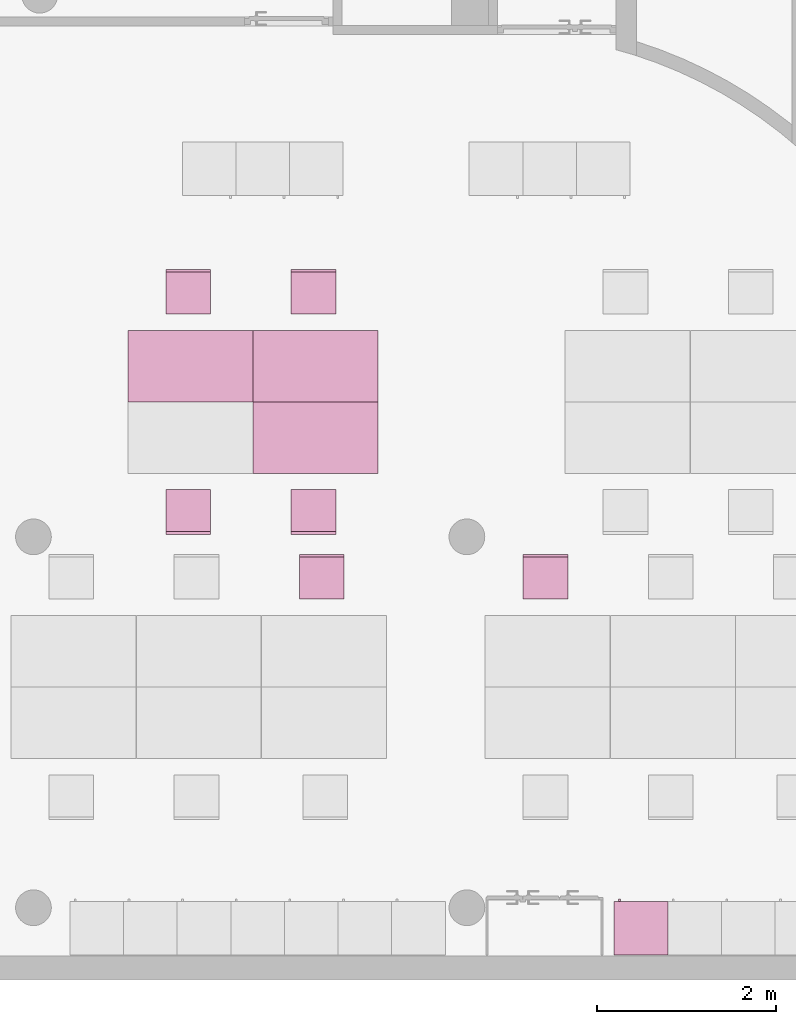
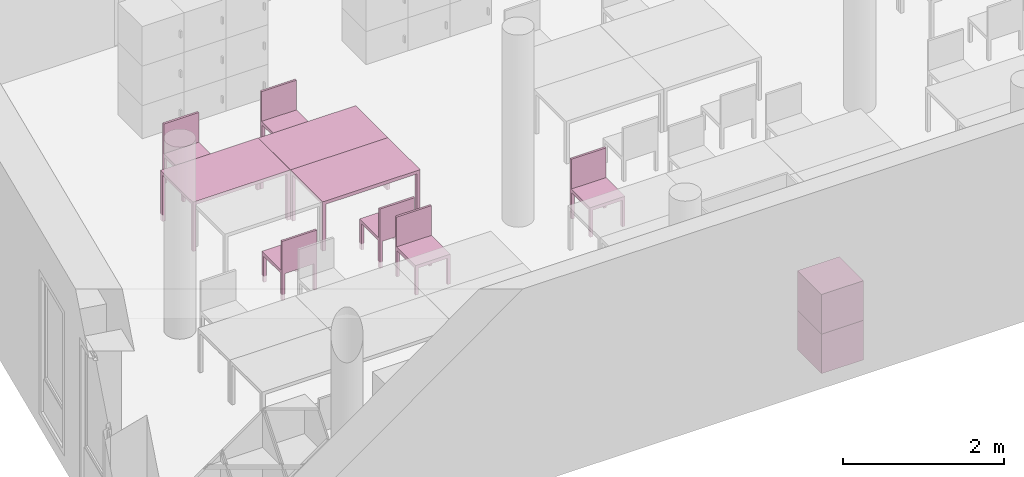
"""IFC4 building model written with IfcOpenShell, lengths in metres."""

from ifc_helpers import new_model, entity, si_unit, converted_unit, derived_unit, frame, origin, place, context, subcontext, project, spatial, faceted_brep, element, save


model = new_model("IFC4")

# Units and contexts
model_context = context("Model", 3, precision=1e-05, world=origin())
body_context = subcontext(model_context, "Body", "Model", "MODEL_VIEW")
ifc_project = project(units=[si_unit("LENGTHUNIT", "METRE"), si_unit("AREAUNIT", "SQUARE_METRE"), si_unit("VOLUMEUNIT", "CUBIC_METRE"), si_unit("MASSUNIT", "GRAM", prefix="KILO"), converted_unit("PLANEANGLEUNIT", "DEGREE", entity("IfcPlaneAngleMeasure", 0.0174532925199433), si_unit("PLANEANGLEUNIT", "RADIAN"), dimensions=[0, 0, 0, 0, 0, 0, 0]), derived_unit("THERMALTRANSMITTANCEUNIT", [(si_unit("POWERUNIT", "WATT"), 1), (si_unit("THERMODYNAMICTEMPERATUREUNIT", "KELVIN"), -1), (si_unit("LENGTHUNIT", "METRE"), -2)]), derived_unit("VOLUMETRICFLOWRATEUNIT", [(si_unit("LENGTHUNIT", "METRE"), 3), (converted_unit("TIMEUNIT", "hour", entity("IfcTimeMeasure", 3600.0), si_unit("TIMEUNIT", "SECOND"), dimensions=[0, 0, 1, 0, 0, 0, 0]), -1), (si_unit("LENGTHUNIT", "METRE"), -1)])], contexts=[model_context])

# Building, storeys
building_placement = place(None, origin())
building = spatial("IfcBuilding", under=ifc_project, at=building_placement, Name="HABITATGE PLURIFAMILIAR", CompositionType="ELEMENT")
storey_1_placement = place(building_placement, frame((0.0, 0.0, 15.28)))
storey_1 = spatial("IfcBuildingStorey", under=building, at=storey_1_placement, Name="PLANTA QUARTA", CompositionType="ELEMENT", Elevation=15.28)
storey_2_placement = place(storey_1_placement, frame((0.0, 0.0, 12.27)))
storey_2 = spatial("IfcBuildingStorey", under=storey_1, at=storey_2_placement, Name="NOU", CompositionType="PARTIAL")

# Furniture
furniture_1_placement = place(storey_2_placement, frame((403.445778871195, 18.5099524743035, -12.3699999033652)))
element("IfcFurniture", 1, at=furniture_1_placement, inside=storey_2, Name="Taula 140X80_P4", context=body_context, shape_type="Brep", body=[
    faceted_brep([(0.04375, 0.750069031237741, 0.0), (0.04375, 0.800069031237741, 0.0), (0.0, 0.800069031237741, 0.0), (0.0, 0.750069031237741, 0.0), (0.04375, 0.800069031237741, 0.7), (0.04375, 0.750069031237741, 0.7), (0.0, 0.750069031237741, 0.7), (0.0, 0.800069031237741, 0.7)], [[[0, 1, 2, 3]], [[4, 5, 6, 7]], [[1, 0, 5, 4]], [[2, 1, 4, 7]], [[3, 2, 7, 6]], [[0, 3, 6, 5]]], orient=[[False], [False], [False], [False], [False], [False]]),
    faceted_brep([(0.04375, 0.0, 0.0), (0.04375, 0.05, 0.0), (0.0, 0.05, 0.0), (0.0, 0.0, 0.0), (0.04375, 0.05, 0.7), (0.04375, 0.0, 0.7), (0.0, 0.0, 0.7), (0.0, 0.05, 0.7)], [[[0, 1, 2, 3]], [[4, 5, 6, 7]], [[1, 0, 5, 4]], [[2, 1, 4, 7]], [[3, 2, 7, 6]], [[0, 3, 6, 5]]], orient=[[False], [False], [False], [False], [False], [False]]),
    faceted_brep([(1.39732768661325, 0.0, 0.7), (1.39732768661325, 0.800069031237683, 0.7), (0.0, 0.800069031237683, 0.7), (0.0, 0.0, 0.7), (1.39732768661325, 0.800069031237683, 0.75), (1.39732768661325, 0.0, 0.75), (0.0, 0.0, 0.75), (0.0, 0.800069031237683, 0.75)], [[[0, 1, 2, 3]], [[4, 5, 6, 7]], [[1, 0, 5, 4]], [[2, 1, 4, 7]], [[3, 2, 7, 6]], [[0, 3, 6, 5]]], orient=[[False], [False], [False], [False], [False], [False]]),
    faceted_brep([(1.39732768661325, 0.750069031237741, 0.0), (1.39732768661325, 0.800069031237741, 0.0), (1.35357768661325, 0.800069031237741, 0.0), (1.35357768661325, 0.750069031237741, 0.0), (1.39732768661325, 0.800069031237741, 0.7), (1.39732768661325, 0.750069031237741, 0.7), (1.35357768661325, 0.750069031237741, 0.7), (1.35357768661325, 0.800069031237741, 0.7)], [[[0, 1, 2, 3]], [[4, 5, 6, 7]], [[1, 0, 5, 4]], [[2, 1, 4, 7]], [[3, 2, 7, 6]], [[0, 3, 6, 5]]], orient=[[False], [False], [False], [False], [False], [False]]),
    faceted_brep([(1.39732768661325, 0.0, 0.0), (1.39732768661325, 0.05, 0.0), (1.35357768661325, 0.05, 0.0), (1.35357768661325, 0.0, 0.0), (1.39732768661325, 0.05, 0.7), (1.39732768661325, 0.0, 0.7), (1.35357768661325, 0.0, 0.7), (1.35357768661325, 0.05, 0.7)], [[[0, 1, 2, 3]], [[4, 5, 6, 7]], [[1, 0, 5, 4]], [[2, 1, 4, 7]], [[3, 2, 7, 6]], [[0, 3, 6, 5]]], orient=[[False], [False], [False], [False], [False], [False]]),
])
furniture_2_placement = place(storey_2_placement, frame((403.445778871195, 19.3100215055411, -12.3699999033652)))
element("IfcFurniture", 2, at=furniture_2_placement, inside=storey_2, Name="Taula 140X80_P4", context=body_context, shape_type="Brep", body=[
    faceted_brep([(0.04375, 0.05, 0.0), (0.0, 0.05, 0.0), (0.0, 0.0, 0.0), (0.04375, 0.0, 0.0), (0.04375, 0.0, 0.7), (0.0, 0.0, 0.7), (0.0, 0.05, 0.7), (0.04375, 0.05, 0.7)], [[[0, 1, 2, 3]], [[4, 5, 6, 7]], [[3, 4, 7, 0]], [[2, 5, 4, 3]], [[1, 6, 5, 2]], [[0, 7, 6, 1]]], orient=[[False], [False], [False], [False], [False], [False]]),
    faceted_brep([(0.04375, 0.800069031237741, 0.0), (0.0, 0.800069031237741, 0.0), (0.0, 0.750069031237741, 0.0), (0.04375, 0.750069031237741, 0.0), (0.04375, 0.750069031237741, 0.7), (0.0, 0.750069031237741, 0.7), (0.0, 0.800069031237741, 0.7), (0.04375, 0.800069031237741, 0.7)], [[[0, 1, 2, 3]], [[4, 5, 6, 7]], [[3, 4, 7, 0]], [[2, 5, 4, 3]], [[1, 6, 5, 2]], [[0, 7, 6, 1]]], orient=[[False], [False], [False], [False], [False], [False]]),
    faceted_brep([(1.39732768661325, 0.800069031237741, 0.7), (0.0, 0.800069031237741, 0.7), (0.0, 0.0, 0.7), (1.39732768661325, 0.0, 0.7), (1.39732768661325, 0.0, 0.75), (0.0, 0.0, 0.75), (0.0, 0.800069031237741, 0.75), (1.39732768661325, 0.800069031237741, 0.75)], [[[0, 1, 2, 3]], [[4, 5, 6, 7]], [[3, 4, 7, 0]], [[2, 5, 4, 3]], [[1, 6, 5, 2]], [[0, 7, 6, 1]]], orient=[[False], [False], [False], [False], [False], [False]]),
    faceted_brep([(1.39732768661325, 0.05, 0.0), (1.35357768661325, 0.05, 0.0), (1.35357768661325, 0.0, 0.0), (1.39732768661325, 0.0, 0.0), (1.39732768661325, 0.0, 0.7), (1.35357768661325, 0.0, 0.7), (1.35357768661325, 0.05, 0.7), (1.39732768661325, 0.05, 0.7)], [[[0, 1, 2, 3]], [[4, 5, 6, 7]], [[3, 4, 7, 0]], [[2, 5, 4, 3]], [[1, 6, 5, 2]], [[0, 7, 6, 1]]], orient=[[False], [False], [False], [False], [False], [False]]),
    faceted_brep([(1.39732768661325, 0.800069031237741, 0.0), (1.35357768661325, 0.800069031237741, 0.0), (1.35357768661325, 0.750069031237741, 0.0), (1.39732768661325, 0.750069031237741, 0.0), (1.39732768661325, 0.750069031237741, 0.7), (1.35357768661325, 0.750069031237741, 0.7), (1.35357768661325, 0.800069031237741, 0.7), (1.39732768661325, 0.800069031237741, 0.7)], [[[0, 1, 2, 3]], [[4, 5, 6, 7]], [[3, 4, 7, 0]], [[2, 5, 4, 3]], [[1, 6, 5, 2]], [[0, 7, 6, 1]]], orient=[[False], [False], [False], [False], [False], [False]]),
])
furniture_3_placement = place(storey_2_placement, frame((402.04459977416, 19.3100215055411, -12.3699999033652)))
element("IfcFurniture", 3, at=furniture_3_placement, inside=storey_2, Name="Taula 140X80_P4", context=body_context, shape_type="Brep", body=[
    faceted_brep([(0.04375, 0.05, 0.0), (0.0, 0.05, 0.0), (0.0, 0.0, 0.0), (0.04375, 0.0, 0.0), (0.04375, 0.0, 0.7), (0.0, 0.0, 0.7), (0.0, 0.05, 0.7), (0.04375, 0.05, 0.7)], [[[0, 1, 2, 3]], [[4, 5, 6, 7]], [[3, 4, 7, 0]], [[2, 5, 4, 3]], [[1, 6, 5, 2]], [[0, 7, 6, 1]]], orient=[[False], [False], [False], [False], [False], [False]]),
    faceted_brep([(0.04375, 0.800069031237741, 0.0), (0.0, 0.800069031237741, 0.0), (0.0, 0.750069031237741, 0.0), (0.04375, 0.750069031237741, 0.0), (0.04375, 0.750069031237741, 0.7), (0.0, 0.750069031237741, 0.7), (0.0, 0.800069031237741, 0.7), (0.04375, 0.800069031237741, 0.7)], [[[0, 1, 2, 3]], [[4, 5, 6, 7]], [[3, 4, 7, 0]], [[2, 5, 4, 3]], [[1, 6, 5, 2]], [[0, 7, 6, 1]]], orient=[[False], [False], [False], [False], [False], [False]]),
    faceted_brep([(1.39732768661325, 0.800069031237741, 0.7), (0.0, 0.800069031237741, 0.7), (0.0, 0.0, 0.7), (1.39732768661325, 0.0, 0.7), (1.39732768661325, 0.0, 0.75), (0.0, 0.0, 0.75), (0.0, 0.800069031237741, 0.75), (1.39732768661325, 0.800069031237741, 0.75)], [[[0, 1, 2, 3]], [[4, 5, 6, 7]], [[3, 4, 7, 0]], [[2, 5, 4, 3]], [[1, 6, 5, 2]], [[0, 7, 6, 1]]], orient=[[False], [False], [False], [False], [False], [False]]),
    faceted_brep([(1.39732768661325, 0.05, 0.0), (1.35357768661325, 0.05, 0.0), (1.35357768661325, 0.0, 0.0), (1.39732768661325, 0.0, 0.0), (1.39732768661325, 0.0, 0.7), (1.35357768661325, 0.0, 0.7), (1.35357768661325, 0.05, 0.7), (1.39732768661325, 0.05, 0.7)], [[[0, 1, 2, 3]], [[4, 5, 6, 7]], [[3, 4, 7, 0]], [[2, 5, 4, 3]], [[1, 6, 5, 2]], [[0, 7, 6, 1]]], orient=[[False], [False], [False], [False], [False], [False]]),
    faceted_brep([(1.39732768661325, 0.800069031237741, 0.0), (1.35357768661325, 0.800069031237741, 0.0), (1.35357768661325, 0.750069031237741, 0.0), (1.39732768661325, 0.750069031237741, 0.0), (1.39732768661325, 0.750069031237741, 0.7), (1.35357768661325, 0.750069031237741, 0.7), (1.35357768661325, 0.800069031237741, 0.7), (1.39732768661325, 0.800069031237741, 0.7)], [[[0, 1, 2, 3]], [[4, 5, 6, 7]], [[3, 4, 7, 0]], [[2, 5, 4, 3]], [[1, 6, 5, 2]], [[0, 7, 6, 1]]], orient=[[False], [False], [False], [False], [False], [False]]),
])
furniture_4_placement = place(storey_2_placement, frame((407.48527037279, 13.1194598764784, -12.37)))
element("IfcFurniture", 4, at=furniture_4_placement, inside=storey_2, Name="Armai 60x60x60_P4", context=body_context, shape_type="Brep", body=[
    faceted_brep([(0.0, 0.6, 0.02), (0.0, 0.6, 0.0), (0.6, 0.6, 0.0), (0.6, 0.6, 0.02), (0.6, 0.0, 0.0), (0.6, 0.0, 0.02), (0.0, 0.0, 0.0), (0.0, 0.0, 0.02)], [[[0, 1, 2, 3]], [[3, 2, 4, 5]], [[5, 4, 6, 7]], [[7, 6, 1, 0]], [[0, 3, 5, 7]], [[1, 6, 4, 2]]], orient=[[False], [False], [False], [False], [False], [False]]),
    faceted_brep([(0.580000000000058, 0.0, 0.58), (0.580000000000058, 0.0200000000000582, 0.58), (0.580000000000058, 0.0200000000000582, 0.02), (0.580000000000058, 0.0, 0.02), (0.0200000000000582, 0.0200000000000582, 0.02), (0.0200000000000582, 0.0, 0.02), (0.0200000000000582, 0.0200000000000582, 0.58), (0.0200000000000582, 0.0, 0.58)], [[[0, 1, 2, 3]], [[3, 2, 4, 5]], [[5, 4, 6, 7]], [[7, 6, 1, 0]], [[0, 3, 5, 7]], [[1, 6, 4, 2]]], orient=[[False], [False], [False], [False], [False], [False]]),
    faceted_brep([(0.0200000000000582, 0.6, 0.58), (0.0, 0.6, 0.58), (0.0, 0.6, 0.02), (0.0200000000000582, 0.6, 0.02), (0.0, 0.0, 0.02), (0.0200000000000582, 0.0, 0.02), (0.0, 0.0, 0.58), (0.0200000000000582, 0.0, 0.58)], [[[0, 1, 2, 3]], [[3, 2, 4, 5]], [[5, 4, 6, 7]], [[7, 6, 1, 0]], [[0, 3, 5, 7]], [[1, 6, 4, 2]]], orient=[[False], [False], [False], [False], [False], [False]]),
    faceted_brep([(0.0, 0.58, 0.58), (0.0, 0.6, 0.58), (0.0, 0.6, 0.02), (0.0, 0.58, 0.02), (0.02, 0.6, 0.02), (0.02, 0.58, 0.02), (0.02, 0.6, 0.58), (0.02, 0.58, 0.58)], [[[0, 1, 2, 3]], [[3, 2, 4, 5]], [[5, 4, 6, 7]], [[7, 6, 1, 0]], [[0, 3, 5, 7]], [[1, 6, 4, 2]]], orient=[[False], [False], [False], [False], [False], [False]]),
    faceted_brep([(0.6, 0.6, 0.58), (0.58, 0.6, 0.58), (0.58, 0.6, 0.02), (0.6, 0.6, 0.02), (0.58, 0.0, 0.02), (0.6, 0.0, 0.02), (0.58, 0.0, 0.58), (0.6, 0.0, 0.58)], [[[0, 1, 2, 3]], [[3, 2, 4, 5]], [[5, 4, 6, 7]], [[7, 6, 1, 0]], [[0, 3, 5, 7]], [[1, 6, 4, 2]]], orient=[[False], [False], [False], [False], [False], [False]]),
    faceted_brep([(0.0, 0.600000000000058, 0.6), (0.0, 0.600000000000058, 0.58), (0.600000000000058, 0.600000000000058, 0.58), (0.600000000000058, 0.600000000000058, 0.6), (0.600000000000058, 0.0, 0.58), (0.600000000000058, 0.0, 0.6), (0.0, 0.0, 0.58), (0.0, 0.0, 0.6)], [[[0, 1, 2, 3]], [[3, 2, 4, 5]], [[5, 4, 6, 7]], [[7, 6, 1, 0]], [[0, 3, 5, 7]], [[1, 6, 4, 2]]], orient=[[False], [False], [False], [False], [False], [False]]),
    faceted_brep([(0.580000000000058, 0.580000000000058, 0.58), (0.580000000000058, 0.600000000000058, 0.58), (0.580000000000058, 0.600000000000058, 0.02), (0.580000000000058, 0.580000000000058, 0.02), (0.02, 0.600000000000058, 0.02), (0.02, 0.580000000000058, 0.02), (0.02, 0.600000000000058, 0.58), (0.02, 0.580000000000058, 0.58)], [[[0, 1, 2, 3]], [[3, 2, 4, 5]], [[5, 4, 6, 7]], [[7, 6, 1, 0]], [[0, 3, 5, 7]], [[1, 6, 4, 2]]], orient=[[False], [False], [False], [False], [False], [False]]),
    faceted_brep([(0.0700000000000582, 0.600000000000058, 0.358064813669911), (0.0700000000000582, 0.630000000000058, 0.358064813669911), (0.0700000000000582, 0.630000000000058, 0.258064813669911), (0.0700000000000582, 0.600000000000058, 0.258064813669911), (0.0500000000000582, 0.630000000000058, 0.258064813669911), (0.0500000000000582, 0.600000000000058, 0.258064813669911), (0.0500000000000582, 0.630000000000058, 0.358064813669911), (0.0500000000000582, 0.600000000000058, 0.358064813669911)], [[[0, 1, 2, 3]], [[3, 2, 4, 5]], [[5, 4, 6, 7]], [[7, 6, 1, 0]], [[0, 3, 5, 7]], [[1, 6, 4, 2]]], orient=[[False], [False], [False], [False], [False], [False]]),
])
furniture_5_placement = place(storey_2_placement, frame((407.48527037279, 13.1194598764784, -11.77)))
element("IfcFurniture", 5, at=furniture_5_placement, inside=storey_2, Name="Armai 60x60x60_P4", context=body_context, shape_type="Brep", body=[
    faceted_brep([(0.0, 0.6, 0.02), (0.0, 0.6, 0.0), (0.6, 0.6, 0.0), (0.6, 0.6, 0.02), (0.6, 0.0, 0.0), (0.6, 0.0, 0.02), (0.0, 0.0, 0.0), (0.0, 0.0, 0.02)], [[[0, 1, 2, 3]], [[3, 2, 4, 5]], [[5, 4, 6, 7]], [[7, 6, 1, 0]], [[0, 3, 5, 7]], [[1, 6, 4, 2]]], orient=[[False], [False], [False], [False], [False], [False]]),
    faceted_brep([(0.580000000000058, 0.0, 0.58), (0.580000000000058, 0.0200000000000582, 0.58), (0.580000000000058, 0.0200000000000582, 0.02), (0.580000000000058, 0.0, 0.02), (0.0200000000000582, 0.0200000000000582, 0.02), (0.0200000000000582, 0.0, 0.02), (0.0200000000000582, 0.0200000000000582, 0.58), (0.0200000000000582, 0.0, 0.58)], [[[0, 1, 2, 3]], [[3, 2, 4, 5]], [[5, 4, 6, 7]], [[7, 6, 1, 0]], [[0, 3, 5, 7]], [[1, 6, 4, 2]]], orient=[[False], [False], [False], [False], [False], [False]]),
    faceted_brep([(0.0200000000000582, 0.6, 0.58), (0.0, 0.6, 0.58), (0.0, 0.6, 0.02), (0.0200000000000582, 0.6, 0.02), (0.0, 0.0, 0.02), (0.0200000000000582, 0.0, 0.02), (0.0, 0.0, 0.58), (0.0200000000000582, 0.0, 0.58)], [[[0, 1, 2, 3]], [[3, 2, 4, 5]], [[5, 4, 6, 7]], [[7, 6, 1, 0]], [[0, 3, 5, 7]], [[1, 6, 4, 2]]], orient=[[False], [False], [False], [False], [False], [False]]),
    faceted_brep([(0.0, 0.58, 0.58), (0.0, 0.6, 0.58), (0.0, 0.6, 0.02), (0.0, 0.58, 0.02), (0.02, 0.6, 0.02), (0.02, 0.58, 0.02), (0.02, 0.6, 0.58), (0.02, 0.58, 0.58)], [[[0, 1, 2, 3]], [[3, 2, 4, 5]], [[5, 4, 6, 7]], [[7, 6, 1, 0]], [[0, 3, 5, 7]], [[1, 6, 4, 2]]], orient=[[False], [False], [False], [False], [False], [False]]),
    faceted_brep([(0.6, 0.6, 0.58), (0.58, 0.6, 0.58), (0.58, 0.6, 0.02), (0.6, 0.6, 0.02), (0.58, 0.0, 0.02), (0.6, 0.0, 0.02), (0.58, 0.0, 0.58), (0.6, 0.0, 0.58)], [[[0, 1, 2, 3]], [[3, 2, 4, 5]], [[5, 4, 6, 7]], [[7, 6, 1, 0]], [[0, 3, 5, 7]], [[1, 6, 4, 2]]], orient=[[False], [False], [False], [False], [False], [False]]),
    faceted_brep([(0.0, 0.600000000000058, 0.6), (0.0, 0.600000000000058, 0.58), (0.600000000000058, 0.600000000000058, 0.58), (0.600000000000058, 0.600000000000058, 0.6), (0.600000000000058, 0.0, 0.58), (0.600000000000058, 0.0, 0.6), (0.0, 0.0, 0.58), (0.0, 0.0, 0.6)], [[[0, 1, 2, 3]], [[3, 2, 4, 5]], [[5, 4, 6, 7]], [[7, 6, 1, 0]], [[0, 3, 5, 7]], [[1, 6, 4, 2]]], orient=[[False], [False], [False], [False], [False], [False]]),
    faceted_brep([(0.580000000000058, 0.580000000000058, 0.58), (0.580000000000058, 0.600000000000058, 0.58), (0.580000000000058, 0.600000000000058, 0.02), (0.580000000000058, 0.580000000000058, 0.02), (0.02, 0.600000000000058, 0.02), (0.02, 0.580000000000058, 0.02), (0.02, 0.600000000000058, 0.58), (0.02, 0.580000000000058, 0.58)], [[[0, 1, 2, 3]], [[3, 2, 4, 5]], [[5, 4, 6, 7]], [[7, 6, 1, 0]], [[0, 3, 5, 7]], [[1, 6, 4, 2]]], orient=[[False], [False], [False], [False], [False], [False]]),
    faceted_brep([(0.0700000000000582, 0.600000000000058, 0.358064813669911), (0.0700000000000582, 0.630000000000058, 0.358064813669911), (0.0700000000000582, 0.630000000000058, 0.258064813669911), (0.0700000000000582, 0.600000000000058, 0.258064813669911), (0.0500000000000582, 0.630000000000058, 0.258064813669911), (0.0500000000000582, 0.600000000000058, 0.258064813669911), (0.0500000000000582, 0.630000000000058, 0.358064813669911), (0.0500000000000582, 0.600000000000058, 0.358064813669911)], [[[0, 1, 2, 3]], [[3, 2, 4, 5]], [[5, 4, 6, 7]], [[7, 6, 1, 0]], [[0, 3, 5, 7]], [[1, 6, 4, 2]]], orient=[[False], [False], [False], [False], [False], [False]]),
])
furniture_6_placement = place(storey_2_placement, frame((403.962266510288, 17.1018108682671, -12.3640610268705)))
element("IfcFurniture", 6, at=furniture_6_placement, inside=storey_2, Name="Cadira d'Oficina_P4", context=body_context, shape_type="Brep", body=[
    faceted_brep([(0.5, 0.0, 0.399999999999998), (0.5, 0.500000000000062, 0.399999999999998), (0.0, 0.5, 0.399999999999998), (0.0, 0.0, 0.399999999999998), (0.5, 0.500000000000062, 0.449999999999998), (0.5, 0.0, 0.449999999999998), (0.0, 0.0, 0.449999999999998), (0.0, 0.5, 0.449999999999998)], [[[0, 1, 2, 3]], [[4, 5, 6, 7]], [[1, 0, 5, 4]], [[2, 1, 4, 7]], [[3, 2, 7, 6]], [[0, 3, 6, 5]]], orient=[[False], [False], [False], [False], [False], [False]]),
    faceted_brep([(0.0, 0.46, 0.0), (0.04, 0.46, 0.0), (0.04, 0.5, 0.0), (0.0, 0.5, 0.0), (0.04, 0.46, 0.4), (0.0, 0.46, 0.4), (0.0, 0.5, 0.4), (0.04, 0.5, 0.4)], [[[0, 1, 2, 3]], [[4, 5, 6, 7]], [[1, 0, 5, 4]], [[2, 1, 4, 7]], [[3, 2, 7, 6]], [[0, 3, 6, 5]]], orient=[[False], [False], [False], [False], [False], [False]]),
    faceted_brep([(0.0, 0.0, 0.0), (0.04, 0.0, 0.0), (0.04, 0.04, 0.0), (0.0, 0.04, 0.0), (0.04, 0.0, 0.4), (0.0, 0.0, 0.4), (0.0, 0.04, 0.4), (0.04, 0.04, 0.4)], [[[0, 1, 2, 3]], [[4, 5, 6, 7]], [[1, 0, 5, 4]], [[2, 1, 4, 7]], [[3, 2, 7, 6]], [[0, 3, 6, 5]]], orient=[[False], [False], [False], [False], [False], [False]]),
    faceted_brep([(0.46, 0.460000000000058, 0.0), (0.5, 0.460000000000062, 0.0), (0.5, 0.500000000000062, 0.0), (0.46, 0.500000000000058, 0.0), (0.5, 0.460000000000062, 0.4), (0.46, 0.460000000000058, 0.4), (0.46, 0.500000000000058, 0.4), (0.5, 0.500000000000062, 0.4)], [[[0, 1, 2, 3]], [[4, 5, 6, 7]], [[1, 0, 5, 4]], [[2, 1, 4, 7]], [[3, 2, 7, 6]], [[0, 3, 6, 5]]], orient=[[False], [False], [False], [False], [False], [False]]),
    faceted_brep([(0.46, 0.0, 0.0), (0.5, 0.0, 0.0), (0.5, 0.0400000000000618, 0.0), (0.46, 0.0400000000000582, 0.0), (0.5, 0.0, 0.4), (0.46, 0.0, 0.4), (0.46, 0.0400000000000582, 0.4), (0.5, 0.0400000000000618, 0.4)], [[[0, 1, 2, 3]], [[4, 5, 6, 7]], [[1, 0, 5, 4]], [[2, 1, 4, 7]], [[3, 2, 7, 6]], [[0, 3, 6, 5]]], orient=[[False], [False], [False], [False], [False], [False]]),
    faceted_brep([(0.0, 0.47, 0.45), (0.5, 0.470000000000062, 0.45), (0.5, 0.500000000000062, 0.45), (0.0, 0.5, 0.45), (0.5, 0.470000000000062, 0.9), (0.0, 0.47, 0.9), (0.0, 0.5, 0.9), (0.5, 0.500000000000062, 0.9)], [[[0, 1, 2, 3]], [[4, 5, 6, 7]], [[1, 0, 5, 4]], [[2, 1, 4, 7]], [[3, 2, 7, 6]], [[0, 3, 6, 5]]], orient=[[False], [False], [False], [False], [False], [False]]),
])
furniture_7_placement = place(storey_2_placement, frame((406.46698289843, 17.1018108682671, -12.3640610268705)))
element("IfcFurniture", 7, at=furniture_7_placement, inside=storey_2, Name="Cadira d'Oficina_P4", context=body_context, shape_type="Brep", body=[
    faceted_brep([(0.5, 0.0, 0.399999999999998), (0.5, 0.500000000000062, 0.399999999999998), (0.0, 0.5, 0.399999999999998), (0.0, 0.0, 0.399999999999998), (0.5, 0.500000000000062, 0.449999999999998), (0.5, 0.0, 0.449999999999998), (0.0, 0.0, 0.449999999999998), (0.0, 0.5, 0.449999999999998)], [[[0, 1, 2, 3]], [[4, 5, 6, 7]], [[1, 0, 5, 4]], [[2, 1, 4, 7]], [[3, 2, 7, 6]], [[0, 3, 6, 5]]], orient=[[False], [False], [False], [False], [False], [False]]),
    faceted_brep([(0.0, 0.46, 0.0), (0.04, 0.46, 0.0), (0.04, 0.5, 0.0), (0.0, 0.5, 0.0), (0.04, 0.46, 0.4), (0.0, 0.46, 0.4), (0.0, 0.5, 0.4), (0.04, 0.5, 0.4)], [[[0, 1, 2, 3]], [[4, 5, 6, 7]], [[1, 0, 5, 4]], [[2, 1, 4, 7]], [[3, 2, 7, 6]], [[0, 3, 6, 5]]], orient=[[False], [False], [False], [False], [False], [False]]),
    faceted_brep([(0.0, 0.0, 0.0), (0.04, 0.0, 0.0), (0.04, 0.04, 0.0), (0.0, 0.04, 0.0), (0.04, 0.0, 0.4), (0.0, 0.0, 0.4), (0.0, 0.04, 0.4), (0.04, 0.04, 0.4)], [[[0, 1, 2, 3]], [[4, 5, 6, 7]], [[1, 0, 5, 4]], [[2, 1, 4, 7]], [[3, 2, 7, 6]], [[0, 3, 6, 5]]], orient=[[False], [False], [False], [False], [False], [False]]),
    faceted_brep([(0.46, 0.460000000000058, 0.0), (0.5, 0.460000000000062, 0.0), (0.5, 0.500000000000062, 0.0), (0.46, 0.500000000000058, 0.0), (0.5, 0.460000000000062, 0.4), (0.46, 0.460000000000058, 0.4), (0.46, 0.500000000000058, 0.4), (0.5, 0.500000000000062, 0.4)], [[[0, 1, 2, 3]], [[4, 5, 6, 7]], [[1, 0, 5, 4]], [[2, 1, 4, 7]], [[3, 2, 7, 6]], [[0, 3, 6, 5]]], orient=[[False], [False], [False], [False], [False], [False]]),
    faceted_brep([(0.46, 0.0, 0.0), (0.5, 0.0, 0.0), (0.5, 0.0400000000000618, 0.0), (0.46, 0.0400000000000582, 0.0), (0.5, 0.0, 0.4), (0.46, 0.0, 0.4), (0.46, 0.0400000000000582, 0.4), (0.5, 0.0400000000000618, 0.4)], [[[0, 1, 2, 3]], [[4, 5, 6, 7]], [[1, 0, 5, 4]], [[2, 1, 4, 7]], [[3, 2, 7, 6]], [[0, 3, 6, 5]]], orient=[[False], [False], [False], [False], [False], [False]]),
    faceted_brep([(0.0, 0.47, 0.45), (0.5, 0.470000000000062, 0.45), (0.5, 0.500000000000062, 0.45), (0.0, 0.5, 0.45), (0.5, 0.470000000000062, 0.9), (0.0, 0.47, 0.9), (0.0, 0.5, 0.9), (0.5, 0.500000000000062, 0.9)], [[[0, 1, 2, 3]], [[4, 5, 6, 7]], [[1, 0, 5, 4]], [[2, 1, 4, 7]], [[3, 2, 7, 6]], [[0, 3, 6, 5]]], orient=[[False], [False], [False], [False], [False], [False]]),
])
furniture_8_placement = place(storey_2_placement, frame((402.469290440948, 17.8277395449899, -12.3653305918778)))
element("IfcFurniture", 8, at=furniture_8_placement, inside=storey_2, Name="Cadira d'Oficina_P4", context=body_context, shape_type="Brep", body=[
    faceted_brep([(0.5, 0.5, 0.399999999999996), (0.0, 0.500000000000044, 0.399999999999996), (0.0, 0.0, 0.399999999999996), (0.5, 0.0, 0.399999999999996), (0.5, 0.0, 0.449999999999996), (0.0, 0.0, 0.449999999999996), (0.0, 0.500000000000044, 0.449999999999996), (0.5, 0.5, 0.449999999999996)], [[[0, 1, 2, 3]], [[4, 5, 6, 7]], [[3, 4, 7, 0]], [[2, 5, 4, 3]], [[1, 6, 5, 2]], [[0, 7, 6, 1]]], orient=[[False], [False], [False], [False], [False], [False]]),
    faceted_brep([(0.0, 0.0400000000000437, 0.0), (0.0, 0.0, 0.0), (0.04, 0.0, 0.0), (0.04, 0.0400000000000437, 0.0), (0.04, 0.0400000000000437, 0.4), (0.04, 0.0, 0.4), (0.0, 0.0, 0.4), (0.0, 0.0400000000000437, 0.4)], [[[0, 1, 2, 3]], [[4, 5, 6, 7]], [[3, 4, 7, 0]], [[2, 5, 4, 3]], [[1, 6, 5, 2]], [[0, 7, 6, 1]]], orient=[[False], [False], [False], [False], [False], [False]]),
    faceted_brep([(0.0, 0.500000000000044, 0.0), (0.0, 0.460000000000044, 0.0), (0.04, 0.460000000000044, 0.0), (0.04, 0.500000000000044, 0.0), (0.04, 0.500000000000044, 0.4), (0.04, 0.460000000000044, 0.4), (0.0, 0.460000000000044, 0.4), (0.0, 0.500000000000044, 0.4)], [[[0, 1, 2, 3]], [[4, 5, 6, 7]], [[3, 4, 7, 0]], [[2, 5, 4, 3]], [[1, 6, 5, 2]], [[0, 7, 6, 1]]], orient=[[False], [False], [False], [False], [False], [False]]),
    faceted_brep([(0.46, 0.04, 0.0), (0.46, 0.0, 0.0), (0.5, 0.0, 0.0), (0.5, 0.04, 0.0), (0.5, 0.04, 0.4), (0.5, 0.0, 0.4), (0.46, 0.0, 0.4), (0.46, 0.04, 0.4)], [[[0, 1, 2, 3]], [[4, 5, 6, 7]], [[3, 4, 7, 0]], [[2, 5, 4, 3]], [[1, 6, 5, 2]], [[0, 7, 6, 1]]], orient=[[False], [False], [False], [False], [False], [False]]),
    faceted_brep([(0.46, 0.5, 0.0), (0.46, 0.46, 0.0), (0.5, 0.46, 0.0), (0.5, 0.5, 0.0), (0.5, 0.5, 0.4), (0.5, 0.46, 0.4), (0.46, 0.46, 0.4), (0.46, 0.5, 0.4)], [[[0, 1, 2, 3]], [[4, 5, 6, 7]], [[3, 4, 7, 0]], [[2, 5, 4, 3]], [[1, 6, 5, 2]], [[0, 7, 6, 1]]], orient=[[False], [False], [False], [False], [False], [False]]),
    faceted_brep([(0.0, 0.0300000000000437, 0.45), (0.0, 0.0, 0.45), (0.5, 0.0, 0.45), (0.5, 0.03, 0.45), (0.5, 0.03, 0.9), (0.5, 0.0, 0.9), (0.0, 0.0, 0.9), (0.0, 0.0300000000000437, 0.9)], [[[0, 1, 2, 3]], [[4, 5, 6, 7]], [[3, 4, 7, 0]], [[2, 5, 4, 3]], [[1, 6, 5, 2]], [[0, 7, 6, 1]]], orient=[[False], [False], [False], [False], [False], [False]]),
])
furniture_9_placement = place(storey_2_placement, frame((403.870469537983, 20.2923034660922, -12.3640610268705)))
element("IfcFurniture", 9, at=furniture_9_placement, inside=storey_2, Name="Cadira d'Oficina_P4", context=body_context, shape_type="Brep", body=[
    faceted_brep([(0.5, 0.0, 0.399999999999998), (0.5, 0.500000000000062, 0.399999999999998), (0.0, 0.5, 0.399999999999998), (0.0, 0.0, 0.399999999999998), (0.5, 0.500000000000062, 0.449999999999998), (0.5, 0.0, 0.449999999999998), (0.0, 0.0, 0.449999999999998), (0.0, 0.5, 0.449999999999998)], [[[0, 1, 2, 3]], [[4, 5, 6, 7]], [[1, 0, 5, 4]], [[2, 1, 4, 7]], [[3, 2, 7, 6]], [[0, 3, 6, 5]]], orient=[[False], [False], [False], [False], [False], [False]]),
    faceted_brep([(0.0, 0.46, 0.0), (0.04, 0.46, 0.0), (0.04, 0.5, 0.0), (0.0, 0.5, 0.0), (0.04, 0.46, 0.4), (0.0, 0.46, 0.4), (0.0, 0.5, 0.4), (0.04, 0.5, 0.4)], [[[0, 1, 2, 3]], [[4, 5, 6, 7]], [[1, 0, 5, 4]], [[2, 1, 4, 7]], [[3, 2, 7, 6]], [[0, 3, 6, 5]]], orient=[[False], [False], [False], [False], [False], [False]]),
    faceted_brep([(0.0, 0.0, 0.0), (0.04, 0.0, 0.0), (0.04, 0.04, 0.0), (0.0, 0.04, 0.0), (0.04, 0.0, 0.4), (0.0, 0.0, 0.4), (0.0, 0.04, 0.4), (0.04, 0.04, 0.4)], [[[0, 1, 2, 3]], [[4, 5, 6, 7]], [[1, 0, 5, 4]], [[2, 1, 4, 7]], [[3, 2, 7, 6]], [[0, 3, 6, 5]]], orient=[[False], [False], [False], [False], [False], [False]]),
    faceted_brep([(0.46, 0.460000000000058, 0.0), (0.5, 0.460000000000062, 0.0), (0.5, 0.500000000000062, 0.0), (0.46, 0.500000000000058, 0.0), (0.5, 0.460000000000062, 0.4), (0.46, 0.460000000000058, 0.4), (0.46, 0.500000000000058, 0.4), (0.5, 0.500000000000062, 0.4)], [[[0, 1, 2, 3]], [[4, 5, 6, 7]], [[1, 0, 5, 4]], [[2, 1, 4, 7]], [[3, 2, 7, 6]], [[0, 3, 6, 5]]], orient=[[False], [False], [False], [False], [False], [False]]),
    faceted_brep([(0.46, 0.0, 0.0), (0.5, 0.0, 0.0), (0.5, 0.0400000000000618, 0.0), (0.46, 0.0400000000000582, 0.0), (0.5, 0.0, 0.4), (0.46, 0.0, 0.4), (0.46, 0.0400000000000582, 0.4), (0.5, 0.0400000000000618, 0.4)], [[[0, 1, 2, 3]], [[4, 5, 6, 7]], [[1, 0, 5, 4]], [[2, 1, 4, 7]], [[3, 2, 7, 6]], [[0, 3, 6, 5]]], orient=[[False], [False], [False], [False], [False], [False]]),
    faceted_brep([(0.0, 0.47, 0.45), (0.5, 0.470000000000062, 0.45), (0.5, 0.500000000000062, 0.45), (0.0, 0.5, 0.45), (0.5, 0.470000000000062, 0.9), (0.0, 0.47, 0.9), (0.0, 0.5, 0.9), (0.5, 0.500000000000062, 0.9)], [[[0, 1, 2, 3]], [[4, 5, 6, 7]], [[1, 0, 5, 4]], [[2, 1, 4, 7]], [[3, 2, 7, 6]], [[0, 3, 6, 5]]], orient=[[False], [False], [False], [False], [False], [False]]),
])
furniture_10_placement = place(storey_2_placement, frame((402.469290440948, 20.2923034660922, -12.3640610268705)))
element("IfcFurniture", 10, at=furniture_10_placement, inside=storey_2, Name="Cadira d'Oficina_P4", context=body_context, shape_type="Brep", body=[
    faceted_brep([(0.5, 0.0, 0.399999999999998), (0.5, 0.500000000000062, 0.399999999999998), (0.0, 0.5, 0.399999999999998), (0.0, 0.0, 0.399999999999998), (0.5, 0.500000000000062, 0.449999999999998), (0.5, 0.0, 0.449999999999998), (0.0, 0.0, 0.449999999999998), (0.0, 0.5, 0.449999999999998)], [[[0, 1, 2, 3]], [[4, 5, 6, 7]], [[1, 0, 5, 4]], [[2, 1, 4, 7]], [[3, 2, 7, 6]], [[0, 3, 6, 5]]], orient=[[False], [False], [False], [False], [False], [False]]),
    faceted_brep([(0.0, 0.46, 0.0), (0.04, 0.46, 0.0), (0.04, 0.5, 0.0), (0.0, 0.5, 0.0), (0.04, 0.46, 0.4), (0.0, 0.46, 0.4), (0.0, 0.5, 0.4), (0.04, 0.5, 0.4)], [[[0, 1, 2, 3]], [[4, 5, 6, 7]], [[1, 0, 5, 4]], [[2, 1, 4, 7]], [[3, 2, 7, 6]], [[0, 3, 6, 5]]], orient=[[False], [False], [False], [False], [False], [False]]),
    faceted_brep([(0.0, 0.0, 0.0), (0.04, 0.0, 0.0), (0.04, 0.04, 0.0), (0.0, 0.04, 0.0), (0.04, 0.0, 0.4), (0.0, 0.0, 0.4), (0.0, 0.04, 0.4), (0.04, 0.04, 0.4)], [[[0, 1, 2, 3]], [[4, 5, 6, 7]], [[1, 0, 5, 4]], [[2, 1, 4, 7]], [[3, 2, 7, 6]], [[0, 3, 6, 5]]], orient=[[False], [False], [False], [False], [False], [False]]),
    faceted_brep([(0.46, 0.460000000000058, 0.0), (0.5, 0.460000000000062, 0.0), (0.5, 0.500000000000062, 0.0), (0.46, 0.500000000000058, 0.0), (0.5, 0.460000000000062, 0.4), (0.46, 0.460000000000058, 0.4), (0.46, 0.500000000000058, 0.4), (0.5, 0.500000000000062, 0.4)], [[[0, 1, 2, 3]], [[4, 5, 6, 7]], [[1, 0, 5, 4]], [[2, 1, 4, 7]], [[3, 2, 7, 6]], [[0, 3, 6, 5]]], orient=[[False], [False], [False], [False], [False], [False]]),
    faceted_brep([(0.46, 0.0, 0.0), (0.5, 0.0, 0.0), (0.5, 0.0400000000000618, 0.0), (0.46, 0.0400000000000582, 0.0), (0.5, 0.0, 0.4), (0.46, 0.0, 0.4), (0.46, 0.0400000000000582, 0.4), (0.5, 0.0400000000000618, 0.4)], [[[0, 1, 2, 3]], [[4, 5, 6, 7]], [[1, 0, 5, 4]], [[2, 1, 4, 7]], [[3, 2, 7, 6]], [[0, 3, 6, 5]]], orient=[[False], [False], [False], [False], [False], [False]]),
    faceted_brep([(0.0, 0.47, 0.45), (0.5, 0.470000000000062, 0.45), (0.5, 0.500000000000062, 0.45), (0.0, 0.5, 0.45), (0.5, 0.470000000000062, 0.9), (0.0, 0.47, 0.9), (0.0, 0.5, 0.9), (0.5, 0.500000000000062, 0.9)], [[[0, 1, 2, 3]], [[4, 5, 6, 7]], [[1, 0, 5, 4]], [[2, 1, 4, 7]], [[3, 2, 7, 6]], [[0, 3, 6, 5]]], orient=[[False], [False], [False], [False], [False], [False]]),
])
furniture_11_placement = place(storey_2_placement, frame((403.870469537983, 17.8277395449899, -12.3653305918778)))
element("IfcFurniture", 11, at=furniture_11_placement, inside=storey_2, Name="Cadira d'Oficina_P4", context=body_context, shape_type="Brep", body=[
    faceted_brep([(0.5, 0.5, 0.399999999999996), (0.0, 0.500000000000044, 0.399999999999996), (0.0, 0.0, 0.399999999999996), (0.5, 0.0, 0.399999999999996), (0.5, 0.0, 0.449999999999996), (0.0, 0.0, 0.449999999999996), (0.0, 0.500000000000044, 0.449999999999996), (0.5, 0.5, 0.449999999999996)], [[[0, 1, 2, 3]], [[4, 5, 6, 7]], [[3, 4, 7, 0]], [[2, 5, 4, 3]], [[1, 6, 5, 2]], [[0, 7, 6, 1]]], orient=[[False], [False], [False], [False], [False], [False]]),
    faceted_brep([(0.0, 0.0400000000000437, 0.0), (0.0, 0.0, 0.0), (0.04, 0.0, 0.0), (0.04, 0.0400000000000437, 0.0), (0.04, 0.0400000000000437, 0.4), (0.04, 0.0, 0.4), (0.0, 0.0, 0.4), (0.0, 0.0400000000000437, 0.4)], [[[0, 1, 2, 3]], [[4, 5, 6, 7]], [[3, 4, 7, 0]], [[2, 5, 4, 3]], [[1, 6, 5, 2]], [[0, 7, 6, 1]]], orient=[[False], [False], [False], [False], [False], [False]]),
    faceted_brep([(0.0, 0.500000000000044, 0.0), (0.0, 0.460000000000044, 0.0), (0.04, 0.460000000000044, 0.0), (0.04, 0.500000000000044, 0.0), (0.04, 0.500000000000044, 0.4), (0.04, 0.460000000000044, 0.4), (0.0, 0.460000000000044, 0.4), (0.0, 0.500000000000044, 0.4)], [[[0, 1, 2, 3]], [[4, 5, 6, 7]], [[3, 4, 7, 0]], [[2, 5, 4, 3]], [[1, 6, 5, 2]], [[0, 7, 6, 1]]], orient=[[False], [False], [False], [False], [False], [False]]),
    faceted_brep([(0.46, 0.04, 0.0), (0.46, 0.0, 0.0), (0.5, 0.0, 0.0), (0.5, 0.04, 0.0), (0.5, 0.04, 0.4), (0.5, 0.0, 0.4), (0.46, 0.0, 0.4), (0.46, 0.04, 0.4)], [[[0, 1, 2, 3]], [[4, 5, 6, 7]], [[3, 4, 7, 0]], [[2, 5, 4, 3]], [[1, 6, 5, 2]], [[0, 7, 6, 1]]], orient=[[False], [False], [False], [False], [False], [False]]),
    faceted_brep([(0.46, 0.5, 0.0), (0.46, 0.46, 0.0), (0.5, 0.46, 0.0), (0.5, 0.5, 0.0), (0.5, 0.5, 0.4), (0.5, 0.46, 0.4), (0.46, 0.46, 0.4), (0.46, 0.5, 0.4)], [[[0, 1, 2, 3]], [[4, 5, 6, 7]], [[3, 4, 7, 0]], [[2, 5, 4, 3]], [[1, 6, 5, 2]], [[0, 7, 6, 1]]], orient=[[False], [False], [False], [False], [False], [False]]),
    faceted_brep([(0.0, 0.0300000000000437, 0.45), (0.0, 0.0, 0.45), (0.5, 0.0, 0.45), (0.5, 0.03, 0.45), (0.5, 0.03, 0.9), (0.5, 0.0, 0.9), (0.0, 0.0, 0.9), (0.0, 0.0300000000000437, 0.9)], [[[0, 1, 2, 3]], [[4, 5, 6, 7]], [[3, 4, 7, 0]], [[2, 5, 4, 3]], [[1, 6, 5, 2]], [[0, 7, 6, 1]]], orient=[[False], [False], [False], [False], [False], [False]]),
])

save(model, "model.ifc")
